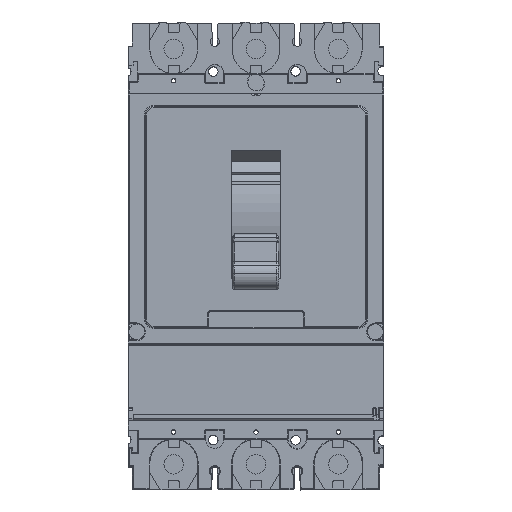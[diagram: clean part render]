
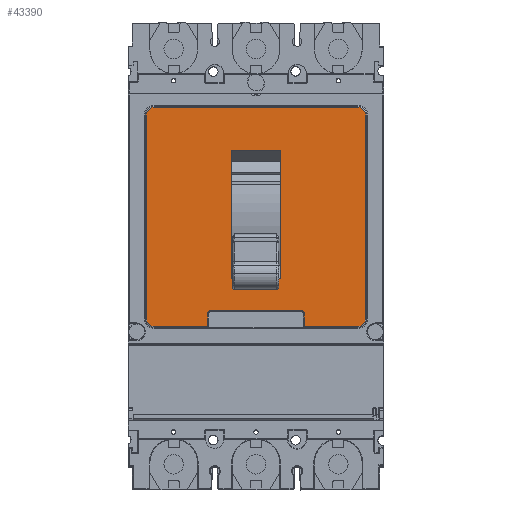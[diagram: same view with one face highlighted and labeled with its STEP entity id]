
A CAD part, top view. The second image highlights one B-rep face of the part: STEP entity #43390.
In plain terms, the highlighted planar face has unit normal (0, 0, 1).
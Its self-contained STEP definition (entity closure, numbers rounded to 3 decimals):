
#15066=DIRECTION('',(1.,0.,0.));
#15067=VECTOR('',#15066,29.247);
#15068=CARTESIAN_POINT('',(96.094,88.94,122.3));
#15069=LINE('',#15068,#15067);
#15082=CARTESIAN_POINT('',(96.094,96.545,122.3));
#15083=CARTESIAN_POINT('',(96.092,96.724,122.3));
#15084=CARTESIAN_POINT('',(96.029,97.053,122.3));
#15085=CARTESIAN_POINT('',(95.736,97.494,122.3));
#15086=CARTESIAN_POINT('',(95.297,97.784,122.3));
#15087=CARTESIAN_POINT('',(94.972,97.847,122.3));
#15088=CARTESIAN_POINT('',(94.796,97.849,122.3));
#15090=CARTESIAN_POINT('',(44.924,97.849,122.3));
#15091=CARTESIAN_POINT('',(44.744,97.848,122.3));
#15092=CARTESIAN_POINT('',(44.412,97.784,122.3));
#15093=CARTESIAN_POINT('',(43.971,97.491,122.3));
#15094=CARTESIAN_POINT('',(43.682,97.053,122.3));
#15095=CARTESIAN_POINT('',(43.618,96.729,122.3));
#15096=CARTESIAN_POINT('',(43.616,96.554,122.3));
#15098=CARTESIAN_POINT('',(14.359,93.44,122.3));
#15099=DIRECTION('',(0.,0.,-1.));
#15100=DIRECTION('',(0.,-1.,0.));
#15101=AXIS2_PLACEMENT_3D('',#15098,#15099,#15100);
#15103=CARTESIAN_POINT('',(14.359,204.422,122.3));
#15104=DIRECTION('',(0.,0.,-1.));
#15105=DIRECTION('',(-1.,0.,0.));
#15106=AXIS2_PLACEMENT_3D('',#15103,#15104,#15105);
#15108=CARTESIAN_POINT('',(125.341,204.422,122.3));
#15109=DIRECTION('',(0.,0.,-1.));
#15110=DIRECTION('',(0.,1.,0.));
#15111=AXIS2_PLACEMENT_3D('',#15108,#15109,#15110);
#15113=CARTESIAN_POINT('',(125.341,93.44,122.3));
#15114=DIRECTION('',(0.,0.,-1.));
#15115=DIRECTION('',(1.,0.,0.));
#15116=AXIS2_PLACEMENT_3D('',#15113,#15114,#15115);
#15118=DIRECTION('',(0.,-1.,0.));
#15119=VECTOR('',#15118,70.093);
#15120=CARTESIAN_POINT('',(56.205,185.424,122.3));
#15121=LINE('',#15120,#15119);
#15122=DIRECTION('',(1.,0.,0.));
#15123=VECTOR('',#15122,27.);
#15124=CARTESIAN_POINT('',(56.205,115.331,122.3));
#15125=LINE('',#15124,#15123);
#15130=DIRECTION('',(0.,-1.,
0.));
#15131=VECTOR('',#15130,7.605);
#15132=CARTESIAN_POINT('',(96.094,96.545,122.3));
#15133=LINE('',#15132,#15131);
#15174=DIRECTION('',(0.,1.,0.));
#15175=VECTOR('',#15174,7.614);
#15176=CARTESIAN_POINT('',(43.616,88.94,122.3));
#15177=LINE('',#15176,#15175);
#15212=DIRECTION('',(1.,0.,0.));
#15213=VECTOR('',#15212,49.872);
#15214=CARTESIAN_POINT('',(44.924,97.849,122.3));
#15215=LINE('',#15214,#15213);
#15258=DIRECTION('',(1.,0.,0.));
#15259=VECTOR('',#15258,29.257);
#15260=CARTESIAN_POINT('',(14.359,88.94,122.3));
#15261=LINE('',#15260,#15259);
#15285=DIRECTION('',(0.,-1.,0.));
#15286=VECTOR('',#15285,110.982);
#15287=CARTESIAN_POINT('',(9.859,204.422,122.3));
#15288=LINE('',#15287,#15286);
#15316=DIRECTION('',(-1.,0.,0.));
#15317=VECTOR('',#15316,110.982);
#15318=CARTESIAN_POINT('',(125.341,208.922,122.3));
#15319=LINE('',#15318,#15317);
#15347=DIRECTION('',(0.,1.,0.));
#15348=VECTOR('',#15347,110.982);
#15349=CARTESIAN_POINT('',(129.841,93.44,122.3));
#15350=LINE('',#15349,#15348);
#15414=DIRECTION('',(1.,0.,0.));
#15415=VECTOR('',#15414,27.);
#15416=CARTESIAN_POINT('',(56.205,185.424,122.3));
#15417=LINE('',#15416,#15415);
#15418=DIRECTION('',(0.,-1.,0.));
#15419=VECTOR('',#15418,70.093);
#15420=CARTESIAN_POINT('',(83.205,185.424,122.3));
#15421=LINE('',#15420,#15419);
#21479=CARTESIAN_POINT('',(96.094,88.94,122.3));
#21480=CARTESIAN_POINT('',(125.341,88.94,122.3));
#21481=VERTEX_POINT('',#21479);
#21482=VERTEX_POINT('',#21480);
#21483=CARTESIAN_POINT('',(96.094,96.545,122.3));
#21484=VERTEX_POINT('',#21483);
#21485=VERTEX_POINT('',#15088);
#21486=CARTESIAN_POINT('',(44.924,97.849,122.3));
#21487=VERTEX_POINT('',#21486);
#21488=VERTEX_POINT('',#15096);
#21489=CARTESIAN_POINT('',(43.616,88.94,122.3));
#21490=VERTEX_POINT('',#21489);
#21491=CARTESIAN_POINT('',(14.359,88.94,122.3));
#21492=VERTEX_POINT('',#21491);
#21493=CARTESIAN_POINT('',(9.859,93.44,122.3));
#21494=VERTEX_POINT('',#21493);
#21495=CARTESIAN_POINT('',(9.859,204.422,122.3));
#21496=VERTEX_POINT('',#21495);
#21497=CARTESIAN_POINT('',(14.359,208.922,122.3));
#21498=VERTEX_POINT('',#21497);
#21499=CARTESIAN_POINT('',(125.341,208.922,122.3));
#21500=VERTEX_POINT('',#21499);
#21501=CARTESIAN_POINT('',(129.841,204.422,122.3));
#21502=VERTEX_POINT('',#21501);
#21503=CARTESIAN_POINT('',(129.841,93.44,122.3));
#21504=VERTEX_POINT('',#21503);
#21505=CARTESIAN_POINT('',(56.205,185.424,122.3));
#21506=CARTESIAN_POINT('',(56.205,115.331,122.3));
#21507=VERTEX_POINT('',#21505);
#21508=VERTEX_POINT('',#21506);
#21509=CARTESIAN_POINT('',(83.205,115.331,122.3));
#21510=VERTEX_POINT('',#21509);
#21511=CARTESIAN_POINT('',(83.205,185.424,122.3));
#21512=VERTEX_POINT('',#21511);
#43346=CARTESIAN_POINT('',(69.85,148.931,122.3));
#43347=DIRECTION('',(0.,0.,1.));
#43348=DIRECTION('',(-1.,0.,0.));
#43349=AXIS2_PLACEMENT_3D('',#43346,#43347,#43348);
#43350=PLANE('',#43349);
#43352=ORIENTED_EDGE('',*,*,#43351,.F.);
#43354=ORIENTED_EDGE('',*,*,#43353,.T.);
#43356=ORIENTED_EDGE('',*,*,#43355,.F.);
#43358=ORIENTED_EDGE('',*,*,#43357,.T.);
#43360=ORIENTED_EDGE('',*,*,#43359,.F.);
#43362=ORIENTED_EDGE('',*,*,#43361,.F.);
#43364=ORIENTED_EDGE('',*,*,#43363,.T.);
#43366=ORIENTED_EDGE('',*,*,#43365,.F.);
#43368=ORIENTED_EDGE('',*,*,#43367,.T.);
#43370=ORIENTED_EDGE('',*,*,#43369,.F.);
#43372=ORIENTED_EDGE('',*,*,#43371,.T.);
#43374=ORIENTED_EDGE('',*,*,#43373,.F.);
#43376=ORIENTED_EDGE('',*,*,#43375,.T.);
#43377=ORIENTED_EDGE('',*,*,#43336,.F.);
#43378=EDGE_LOOP('',(#43352,#43354,#43356,#43358,#43360,#43362,#43364,#43366,
#43368,#43370,#43372,#43374,#43376,#43377));
#43379=FACE_OUTER_BOUND('',#43378,.F.);
#43381=ORIENTED_EDGE('',*,*,#43380,.T.);
#43383=ORIENTED_EDGE('',*,*,#43382,.T.);
#43385=ORIENTED_EDGE('',*,*,#43384,.F.);
#43387=ORIENTED_EDGE('',*,*,#43386,.F.);
#43388=EDGE_LOOP('',(#43381,#43383,#43385,#43387));
#43389=FACE_BOUND('',#43388,.F.);
#43390=ADVANCED_FACE('',(#43379,#43389),#43350,.T.);
#15089=B_SPLINE_CURVE_WITH_KNOTS('',3,(#15082,#15083,#15084,#15085,#15086,
#15087,#15088),.UNSPECIFIED.,.F.,.F.,(4,1,1,1,4),(0.,0.25,0.5,0.75,
1.),.UNSPECIFIED.);
#15097=B_SPLINE_CURVE_WITH_KNOTS('',3,(#15090,#15091,#15092,#15093,#15094,
#15095,#15096),.UNSPECIFIED.,.F.,.F.,(4,1,1,1,4),(0.,0.25,0.5,0.75,
1.),.UNSPECIFIED.);
#15102=CIRCLE('',#15101,4.5);
#15107=CIRCLE('',#15106,4.5);
#15112=CIRCLE('',#15111,4.5);
#15117=CIRCLE('',#15116,4.5);
#43336=EDGE_CURVE('',#21481,#21482,#15069,.T.);
#43351=EDGE_CURVE('',#21484,#21481,#15133,.T.);
#43353=EDGE_CURVE('',#21484,#21485,#15089,.T.);
#43355=EDGE_CURVE('',#21487,#21485,#15215,.T.);
#43357=EDGE_CURVE('',#21487,#21488,#15097,.T.);
#43359=EDGE_CURVE('',#21490,#21488,#15177,.T.);
#43361=EDGE_CURVE('',#21492,#21490,#15261,.T.);
#43363=EDGE_CURVE('',#21492,#21494,#15102,.T.);
#43365=EDGE_CURVE('',#21496,#21494,#15288,.T.);
#43367=EDGE_CURVE('',#21496,#21498,#15107,.T.);
#43369=EDGE_CURVE('',#21500,#21498,#15319,.T.);
#43371=EDGE_CURVE('',#21500,#21502,#15112,.T.);
#43373=EDGE_CURVE('',#21504,#21502,#15350,.T.);
#43375=EDGE_CURVE('',#21504,#21482,#15117,.T.);
#43380=EDGE_CURVE('',#21507,#21508,#15121,.T.);
#43382=EDGE_CURVE('',#21508,#21510,#15125,.T.);
#43384=EDGE_CURVE('',#21512,#21510,#15421,.T.);
#43386=EDGE_CURVE('',#21507,#21512,#15417,.T.);
